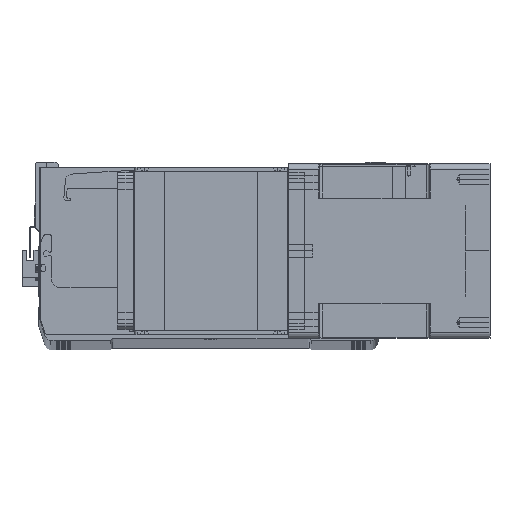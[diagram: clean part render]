
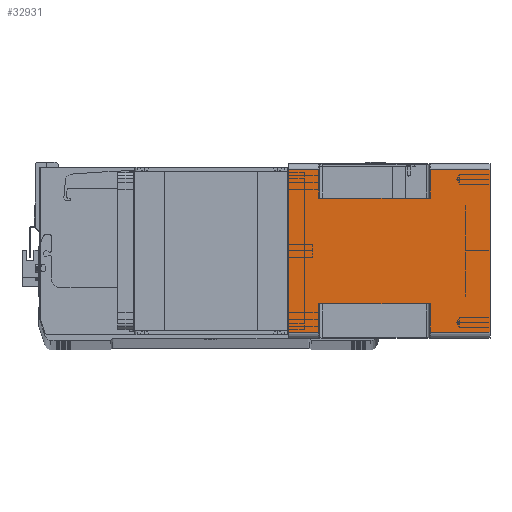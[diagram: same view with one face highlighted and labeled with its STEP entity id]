
A CAD part, top view. The second image highlights one B-rep face of the part: STEP entity #32931.
In plain terms, the highlighted planar face has unit normal (0, 0, 1) as drawn and (1, 0, 0) by its records, which use the part's own axes.
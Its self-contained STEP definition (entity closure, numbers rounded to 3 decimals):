
#1245 = LINE ( 'NONE', #24521, #16652 ) ;
#1657 = CARTESIAN_POINT ( 'NONE',  ( 71., -66., -164. ) ) ;
#1790 = PLANE ( 'NONE',  #12662 ) ;
#1827 = CARTESIAN_POINT ( 'NONE',  ( 71., 66., 0. ) ) ;
#1838 = ORIENTED_EDGE ( 'NONE', *, *, #26778, .T. ) ;
#1951 = DIRECTION ( 'NONE',  ( 0., 1., 0. ) ) ;
#2097 = LINE ( 'NONE', #2432, #36048 ) ;
#2432 = CARTESIAN_POINT ( 'NONE',  ( 71., -66., -164. ) ) ;
#2598 = CARTESIAN_POINT ( 'NONE',  ( 71., 43., -164. ) ) ;
#2681 = ORIENTED_EDGE ( 'NONE', *, *, #15592, .F. ) ;
#3355 = DIRECTION ( 'NONE',  ( 0., -1., 0. ) ) ;
#3402 = CARTESIAN_POINT ( 'NONE',  ( 71., -43., -24.5 ) ) ;
#3664 = EDGE_CURVE ( 'NONE', #31579, #16952, #27831, .T. ) ;
#3719 = VERTEX_POINT ( 'NONE', #34215 ) ;
#3757 = CARTESIAN_POINT ( 'NONE',  ( 71., -66., -164. ) ) ;
#4481 = ORIENTED_EDGE ( 'NONE', *, *, #38335, .T. ) ;
#4706 = DIRECTION ( 'NONE',  ( 0., 1., 0. ) ) ;
#5094 = DIRECTION ( 'NONE',  ( 0., -1., 0. ) ) ;
#5678 = EDGE_CURVE ( 'NONE', #23496, #31262, #24760, .T. ) ;
#5874 = CARTESIAN_POINT ( 'NONE',  ( 71., -66., -115.5 ) ) ;
#6200 = ORIENTED_EDGE ( 'NONE', *, *, #17395, .T. ) ;
#6551 = DIRECTION ( 'NONE',  ( 0., 1., 0. ) ) ;
#7384 = VECTOR ( 'NONE', #5094, 1000. ) ;
#8345 = DIRECTION ( 'NONE',  ( 0., 1., 0. ) ) ;
#8766 = EDGE_LOOP ( 'NONE', ( #2681, #32068, #32566, #24059, #1838, #25664, #20479, #34505, #6200, #31664, #22453, #4481 ) ) ;
#9787 = CARTESIAN_POINT ( 'NONE',  ( 71., 66., -24.5 ) ) ;
#10249 = VERTEX_POINT ( 'NONE', #15136 ) ;
#10946 = DIRECTION ( 'NONE',  ( 1., 0., 0. ) ) ;
#11516 = VECTOR ( 'NONE', #23762, 1000. ) ;
#11694 = DIRECTION ( 'NONE',  ( 0., 1., 0. ) ) ;
#12212 = CARTESIAN_POINT ( 'NONE',  ( 71., -66., -164. ) ) ;
#12662 = AXIS2_PLACEMENT_3D ( 'NONE', #1657, #10946, #4706 ) ;
#13030 = FACE_OUTER_BOUND ( 'NONE', #8766, .T. ) ;
#13781 = EDGE_CURVE ( 'NONE', #26163, #35705, #35688, .T. ) ;
#14081 = VERTEX_POINT ( 'NONE', #16522 ) ;
#14453 = DIRECTION ( 'NONE',  ( 0., 0., -1. ) ) ;
#14556 = CARTESIAN_POINT ( 'NONE',  ( 71., 43., -24.5 ) ) ;
#14747 = EDGE_CURVE ( 'NONE', #26163, #10249, #2097, .T. ) ;
#15136 = CARTESIAN_POINT ( 'NONE',  ( 71., 66., -164. ) ) ;
#15547 = CARTESIAN_POINT ( 'NONE',  ( 71., -66., -24.5 ) ) ;
#15592 = EDGE_CURVE ( 'NONE', #14081, #16328, #36907, .T. ) ;
#15700 = DIRECTION ( 'NONE',  ( 0., 0., 1. ) ) ;
#16328 = VERTEX_POINT ( 'NONE', #36300 ) ;
#16522 = CARTESIAN_POINT ( 'NONE',  ( 71., -43., -115.5 ) ) ;
#16652 = VECTOR ( 'NONE', #15700, 1000. ) ;
#16952 = VERTEX_POINT ( 'NONE', #31017 ) ;
#17133 = EDGE_CURVE ( 'NONE', #14081, #35705, #27798, .T. ) ;
#17395 = EDGE_CURVE ( 'NONE', #31262, #26032, #1245, .T. ) ;
#17945 = LINE ( 'NONE', #2598, #18250 ) ;
#17974 = LINE ( 'NONE', #38555, #23524 ) ;
#18250 = VECTOR ( 'NONE', #14453, 1000. ) ;
#19989 = EDGE_CURVE ( 'NONE', #16952, #26032, #35256, .T. ) ;
#20404 = VECTOR ( 'NONE', #27570, 1000. ) ;
#20479 = ORIENTED_EDGE ( 'NONE', *, *, #22945, .F. ) ;
#22453 = ORIENTED_EDGE ( 'NONE', *, *, #3664, .F. ) ;
#22945 = EDGE_CURVE ( 'NONE', #23496, #3719, #17945, .T. ) ;
#23397 = CARTESIAN_POINT ( 'NONE',  ( 71., 66., -115.5 ) ) ;
#23496 = VERTEX_POINT ( 'NONE', #14556 ) ;
#23524 = VECTOR ( 'NONE', #3355, 1000. ) ;
#23762 = DIRECTION ( 'NONE',  ( 0., 0., 1. ) ) ;
#24059 = ORIENTED_EDGE ( 'NONE', *, *, #14747, .T. ) ;
#24117 = CARTESIAN_POINT ( 'NONE',  ( 71., -66., -164. ) ) ;
#24521 = CARTESIAN_POINT ( 'NONE',  ( 71., 66., -164. ) ) ;
#24760 = LINE ( 'NONE', #35435, #34078 ) ;
#25448 = CARTESIAN_POINT ( 'NONE',  ( 71., -66., -115.5 ) ) ;
#25664 = ORIENTED_EDGE ( 'NONE', *, *, #37360, .T. ) ;
#26032 = VERTEX_POINT ( 'NONE', #1827 ) ;
#26060 = DIRECTION ( 'NONE',  ( 0., 0., 1. ) ) ;
#26163 = VERTEX_POINT ( 'NONE', #3757 ) ;
#26778 = EDGE_CURVE ( 'NONE', #10249, #38285, #33895, .T. ) ;
#27132 = VECTOR ( 'NONE', #6551, 1000. ) ;
#27330 = VECTOR ( 'NONE', #1951, 1000. ) ;
#27570 = DIRECTION ( 'NONE',  ( 0., 0., 1. ) ) ;
#27683 = CARTESIAN_POINT ( 'NONE',  ( 71., -66., 0. ) ) ;
#27798 = LINE ( 'NONE', #25448, #7384 ) ;
#27831 = LINE ( 'NONE', #24117, #20404 ) ;
#29015 = VECTOR ( 'NONE', #33813, 1000. ) ;
#30206 = VECTOR ( 'NONE', #26060, 1000. ) ;
#31017 = CARTESIAN_POINT ( 'NONE',  ( 71., -66., 0. ) ) ;
#31262 = VERTEX_POINT ( 'NONE', #9787 ) ;
#31579 = VERTEX_POINT ( 'NONE', #15547 ) ;
#31664 = ORIENTED_EDGE ( 'NONE', *, *, #19989, .F. ) ;
#32068 = ORIENTED_EDGE ( 'NONE', *, *, #17133, .T. ) ;
#32566 = ORIENTED_EDGE ( 'NONE', *, *, #13781, .F. ) ;
#32931 = ADVANCED_FACE ( 'NONE', ( #13030 ), #1790, .T. ) ;
#33813 = DIRECTION ( 'NONE',  ( 0., 0., 1. ) ) ;
#33895 = LINE ( 'NONE', #38013, #30206 ) ;
#34078 = VECTOR ( 'NONE', #11694, 1000. ) ;
#34215 = CARTESIAN_POINT ( 'NONE',  ( 71., 43., -115.5 ) ) ;
#34505 = ORIENTED_EDGE ( 'NONE', *, *, #5678, .T. ) ;
#35256 = LINE ( 'NONE', #27683, #27330 ) ;
#35435 = CARTESIAN_POINT ( 'NONE',  ( 71., -66., -24.5 ) ) ;
#35688 = LINE ( 'NONE', #12212, #11516 ) ;
#35705 = VERTEX_POINT ( 'NONE', #5874 ) ;
#36048 = VECTOR ( 'NONE', #8345, 1000. ) ;
#36300 = CARTESIAN_POINT ( 'NONE',  ( 71., -43., -24.5 ) ) ;
#36411 = LINE ( 'NONE', #3402, #27132 ) ;
#36907 = LINE ( 'NONE', #37070, #29015 ) ;
#37070 = CARTESIAN_POINT ( 'NONE',  ( 71., -43., -164. ) ) ;
#37360 = EDGE_CURVE ( 'NONE', #38285, #3719, #17974, .T. ) ;
#38013 = CARTESIAN_POINT ( 'NONE',  ( 71., 66., -164. ) ) ;
#38285 = VERTEX_POINT ( 'NONE', #23397 ) ;
#38335 = EDGE_CURVE ( 'NONE', #31579, #16328, #36411, .T. ) ;
#38555 = CARTESIAN_POINT ( 'NONE',  ( 71., 43., -115.5 ) ) ;
